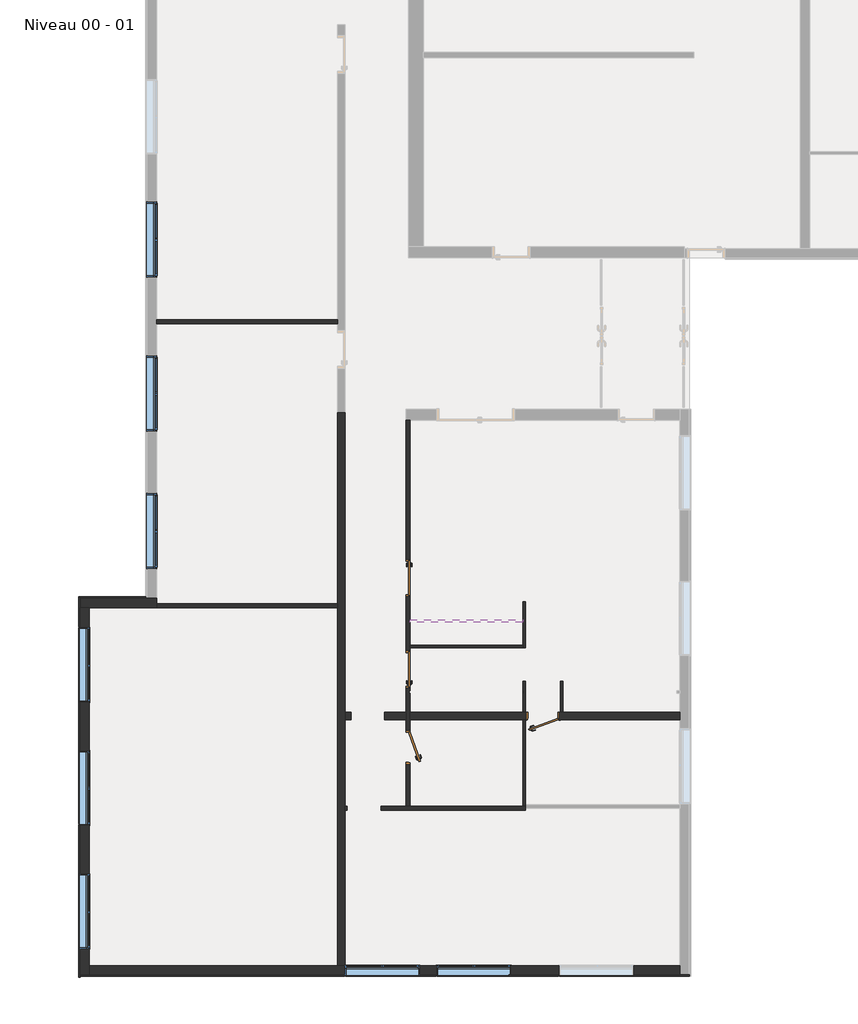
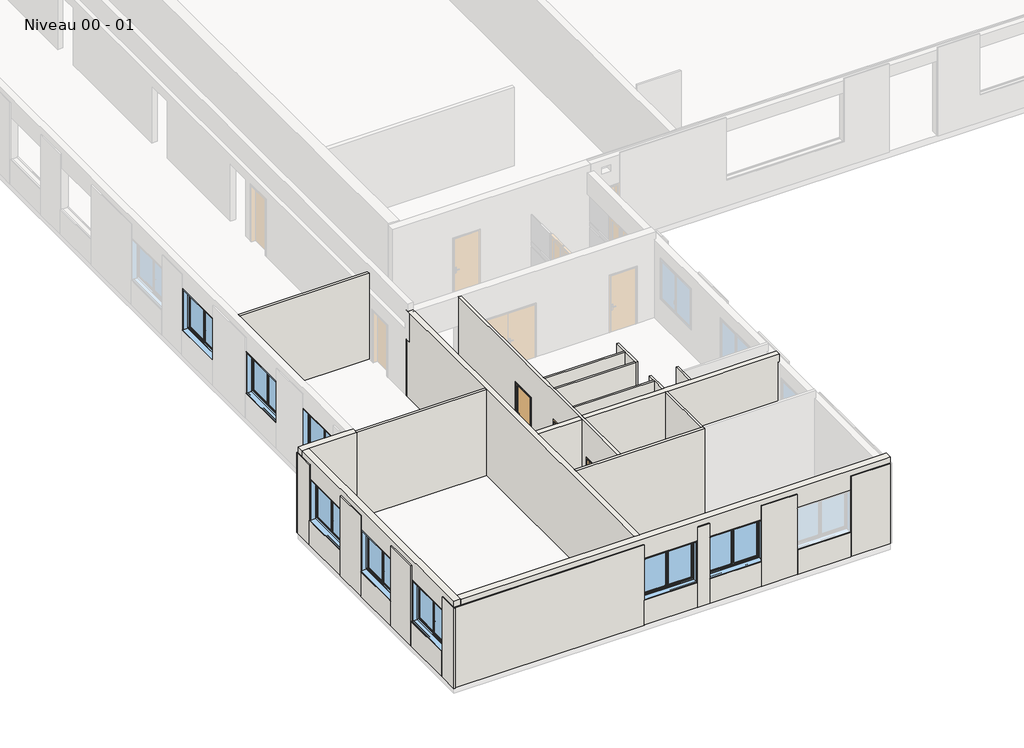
# One storey, part 1 of 8: 19 walls, 8 windows, 4 doors.
"""IFC4 building model written with IfcOpenShell, lengths in millimetres."""

from ifc_helpers import new_model, si_unit, frame, origin, place, context, project, spatial, polyline, outline, extrude, faceted_brep, transform, mapped, element, save
from components import door_f0ec710b, door_7789ac37, door_0ca0b57b, door_aee14cec, window_200_x_160_3bbd1c25

model = new_model("IFC4")

# Units and contexts
model_context = context("Model", 3, world=origin())
ifc_project = project(units=[si_unit("LENGTHUNIT", "METRE", prefix="MILLI")], contexts=[model_context])

# Site, building, storey
site = spatial("IfcSite", under=ifc_project)
building = spatial("IfcBuilding", under=site)
storey = spatial("IfcBuildingStorey", under=building, Name="Niveau 00 - 01", Elevation=253.3082742)

# Doors
placement = place(None, origin())
door_shape = door_f0ec710b(model_context)
element("IfcDoor", 1, ObjectType="@_Int. Simple : @_PP (0.93m x 2.25)", at=placement, inside=storey, context=model_context, shape_type="MappedRepresentation", body=[
    mapped(door_shape, transform((-36353.9891748, -45486.4622478, 253.3082742), x_axis=(0.0, 1.0, 0.0), y_axis=(-1.0, 0.0, 0.0), z_axis=(0.0, 0.0, 1.0))),
])
door_2_shape = door_7789ac37(model_context)
element("IfcDoor", 2, ObjectType="@_Int. Simple : @_PP (0.93m x 2.25)", at=placement, inside=storey, context=model_context, shape_type="MappedRepresentation", body=[
    mapped(door_2_shape, transform((-36353.9891748, -43111.9568753, 253.3082742), x_axis=(0.0, -1.0, 0.0), y_axis=(1.0, 0.0, 0.0), z_axis=(0.0, 0.0, 1.0))),
])
door_3_shape = door_0ca0b57b(model_context)
element("IfcDoor", 3, ObjectType="@_Int. Simple : @_PP (0.83m x 2.04m)", at=placement, inside=storey, context=model_context, shape_type="MappedRepresentation", body=[
    mapped(door_3_shape, transform((-32710.3661248, -46774.4568753, 253.3082742), x_axis=(1.0, 0.0, 0.0), y_axis=(0.0, 1.0, 0.0), z_axis=(0.0, 0.0, 1.0))),
])
door_4_shape = door_aee14cec(model_context)
element("IfcDoor", 4, ObjectType="@_Int. Simple : @_PP (0.83m x 2.04m)", at=placement, inside=storey, context=model_context, shape_type="MappedRepresentation", body=[
    mapped(door_4_shape, transform((-36353.9891748, -47575.9676203, 253.3082742), x_axis=(0.0, 1.0, 0.0), y_axis=(-1.0, 0.0, 0.0), z_axis=(0.0, 0.0, 1.0))),
])

# Walls
element("IfcWall", 5, ObjectType="@_Générique - Int. 100 mm", at=placement, inside=storey, context=model_context, shape_type="Brep", body=[
    faceted_brep([(-43092.9002047, -43867.1378722, 253.3082742), (-38243.9891749, -43867.1378721, 253.3082742), (-38243.9891749, -43867.1378721, 3653.3082742), (-43092.9002047, -43867.1378722, 3653.3082742), (-43092.9002047, -43867.1378722, 3651.8727639), (-43092.9002047, -43867.1378722, 466.6165485), (-43092.9002047, -43767.1378722, 253.3082742), (-43092.9002047, -43767.1378722, 3653.3082742), (-38243.9891749, -43767.1378721, 3653.3082742), (-38243.9891749, -43767.1378721, 253.3082742)], [[[0, 1, 2, 3, 4, 5]], [[6, 7, 8, 9]], [[1, 0, 6, 9]], [[2, 1, 9, 8]], [[3, 2, 8, 7]], [[0, 5, 4, 3, 7, 6]]]),
])
element("IfcWall", 6, ObjectType="@_Générique - Int. 100 mm", at=placement, inside=storey, context=model_context, shape_type="SweptSolid", body=[
    extrude(outline(polyline([(-38243.9891749, -36264.8269593), (-43092.9002047, -36264.8269594), (-43092.9002047, -36164.8269594), (-38243.9891749, -36164.8269593), (-38243.9891749, -36264.8269593)])), frame((0.0, 0.0, 253.3082742), z_axis=(0.0, 0.0, 1.0), x_axis=(1.0, 0.0, 0.0)), (0.0, 0.0, 1.0), 3400.0),
])
element("IfcWall", 7, ObjectType="@_Générique - Int. 100 mm", at=placement, inside=storey, context=model_context, shape_type="Brep", body=[
    faceted_brep([(-36303.9891748, -38859.0543071, 3653.3082742), (-36303.9891748, -44195.2078894, 3653.3082742), (-36303.9891748, -44265.2078894, 3653.3082742), (-36303.9891748, -44876.9568753, 3653.3082742), (-36303.9891748, -44946.9568753, 3653.3082742), (-36303.9891748, -46095.9676203, 3653.3082742), (-36303.9891748, -46165.9676203, 3653.3082742), (-36303.9891748, -46674.4568753, 3653.3082742), (-36303.9891748, -46874.4568753, 3653.3082742), (-36303.9891748, -49189.481824, 3653.3082742), (-36303.9891748, -49189.481824, 3150.0), (-36303.9891748, -49189.481824, 3100.0), (-36303.9891748, -49189.481824, 253.3082742), (-36303.9891748, -48060.9676203, 253.3082742), (-36303.9891748, -48060.9676203, 2328.3082742), (-36303.9891748, -47160.9676203, 2328.3082742), (-36303.9891748, -47160.9676203, 253.3082742), (-36303.9891748, -46874.4568753, 253.3082742), (-36303.9891748, -46674.4568753, 253.3082742), (-36303.9891748, -46165.9676203, 253.3082742), (-36303.9891748, -46165.9676203, 2075.0), (-36303.9891748, -46095.9676203, 2075.0), (-36303.9891748, -46095.9676203, 253.3082742), (-36303.9891748, -46021.4622478, 253.3082742), (-36303.9891748, -46021.4622478, 2518.3082742), (-36303.9891748, -45021.4622478, 2518.3082742), (-36303.9891748, -45021.4622478, 253.3082742), (-36303.9891748, -44946.9568753, 253.3082742), (-36303.9891748, -44876.9568753, 253.3082742), (-36303.9891748, -44265.2078894, 253.3082742), (-36303.9891748, -44265.2078894, 2075.0), (-36303.9891748, -44195.2078894, 2075.0), (-36303.9891748, -44195.2078894, 253.3082742), (-36303.9891748, -43576.9568753, 253.3082742), (-36303.9891748, -43576.9568753, 2518.3082742), (-36303.9891748, -42576.9568753, 2518.3082742), (-36303.9891748, -42576.9568753, 253.3082742), (-36303.9891748, -38859.0543071, 253.3082742), (-36303.9891748, -38859.0543071, 3100.0), (-36303.9891748, -38859.0543071, 3150.0), (-36403.9891748, -49189.481824, 3653.3082742), (-36403.9891748, -46874.4568753, 3653.3082742), (-36403.9891748, -46674.4568753, 3653.3082742), (-36403.9891748, -38859.0543071, 3653.3082742), (-36403.9891748, -38859.0543071, 2500.0), (-36403.9891748, -38859.0543071, 253.3082742), (-36403.9891748, -42576.9568753, 253.3082742), (-36403.9891748, -42576.9568753, 2518.3082742), (-36403.9891748, -43576.9568753, 2518.3082742), (-36403.9891748, -43576.9568753, 253.3082742), (-36403.9891748, -45021.4622478, 253.3082742), (-36403.9891748, -45021.4622478, 2518.3082742), (-36403.9891748, -46021.4622478, 2518.3082742), (-36403.9891748, -46021.4622478, 253.3082742), (-36403.9891748, -46674.4568753, 253.3082742), (-36403.9891748, -46874.4568753, 253.3082742), (-36403.9891748, -47160.9676203, 253.3082742), (-36403.9891748, -47160.9676203, 2328.3082742), (-36403.9891748, -48060.9676203, 2328.3082742), (-36403.9891748, -48060.9676203, 253.3082742), (-36403.9891748, -49189.481824, 253.3082742), (-36403.9891748, -49189.481824, 3100.0), (-36403.9891748, -49189.481824, 3150.0), (-36323.9891748, -44195.2078894, 253.3082742), (-36323.9891748, -44265.2078894, 253.3082742), (-36334.5346136, -46095.9676203, 253.3082742), (-36334.5346136, -46165.9676203, 253.3082742), (-36334.5346136, -46095.9676203, 2075.0), (-36334.5346136, -46165.9676203, 2075.0), (-36323.9891748, -44195.2078894, 2075.0), (-36323.9891748, -44265.2078894, 2075.0)], [[[0, 1, 2, 3, 4, 5, 6, 7, 8, 9, 10, 11, 12, 13, 14, 15, 16, 17, 18, 19, 20, 21, 22, 23, 24, 25, 26, 27, 28, 29, 30, 31, 32, 33, 34, 35, 36, 37, 38, 39]], [[40, 41, 42, 43, 44, 45, 46, 47, 48, 49, 50, 51, 52, 53, 54, 55, 56, 57, 58, 59, 60, 61, 62]], [[37, 36, 46, 45]], [[49, 33, 32, 63, 64, 29, 28, 27, 26, 50]], [[53, 23, 22, 65, 66, 19, 18, 17, 16, 56, 55, 54]], [[12, 60, 59, 13]], [[9, 8, 7, 6, 5, 4, 3, 2, 1, 0, 43, 42, 41, 40]], [[12, 11, 10, 9, 40, 62, 61, 60]], [[48, 34, 33, 49]], [[34, 48, 47, 35]], [[35, 47, 46, 36]], [[25, 51, 50, 26]], [[51, 25, 24, 52]], [[52, 24, 23, 53]], [[15, 57, 56, 16]], [[57, 15, 14, 58]], [[58, 14, 13, 59]], [[37, 45, 44, 43, 0, 39, 38]], [[21, 67, 65, 22]], [[66, 68, 20, 19]], [[67, 68, 66, 65]], [[68, 67, 21, 20]], [[31, 69, 63, 32]], [[64, 70, 30, 29]], [[69, 70, 64, 63]], [[70, 69, 31, 30]]]),
])
element("IfcWall", 8, ObjectType="@_Générique - Int. 100 mm", at=placement, inside=storey, context=model_context, shape_type="Brep", body=[
    faceted_brep([(-38043.9891749, -49189.481824, 3653.3082742), (-36403.9891748, -49189.481824, 3653.3082742), (-36303.9891748, -49189.481824, 3653.3082742), (-33283.8905761, -49189.481824, 3653.3082742), (-33213.8905761, -49189.481824, 3653.3082742), (-33213.8905761, -49189.481824, 253.3082742), (-33283.8905761, -49189.481824, 253.3082742), (-36303.9891748, -49189.481824, 253.3082742), (-36403.9891748, -49189.481824, 253.3082742), (-37083.9891749, -49189.481824, 253.3082742), (-37083.9891749, -49189.481824, 2100.0), (-37983.9891749, -49189.481824, 2100.0), (-37983.9891749, -49189.481824, 253.3082742), (-38043.9891749, -49189.481824, 253.3082742), (-33213.8905761, -49289.481824, 3653.3082742), (-38043.9891749, -49289.481824, 3653.3082742), (-38043.9891749, -49289.481824, 253.3082742), (-37983.9891749, -49289.481824, 253.3082742), (-37983.9891749, -49289.481824, 2100.0), (-37083.9891749, -49289.481824, 2100.0), (-37083.9891749, -49289.481824, 253.3082742), (-33213.8905761, -49289.481824, 253.3082742), (-33213.8905761, -49246.6174839, 253.3082742), (-33213.8905761, -49246.6174839, 3653.3082742)], [[[0, 1, 2, 3, 4, 5, 6, 7, 8, 9, 10, 11, 12, 13]], [[14, 15, 16, 17, 18, 19, 20, 21]], [[5, 22, 21, 20, 9, 8, 7, 6]], [[16, 13, 12, 17]], [[4, 3, 2, 1, 0, 15, 14, 23]], [[5, 4, 23, 14, 21, 22]], [[0, 13, 16, 15]], [[11, 18, 17, 12]], [[19, 10, 9, 20]], [[10, 19, 18, 11]]]),
])
element("IfcWall", 9, ObjectType="@_Générique - Int. 70 mm", at=placement, inside=storey, context=model_context, shape_type="Brep", body=[
    faceted_brep([(-33213.8905761, -49189.481824, 253.3082742), (-33213.8905761, -49146.6174839, 253.3082742), (-33213.8905761, -46874.4568753, 253.3082742), (-33213.8905761, -46874.4568753, 3653.3082742), (-33213.8905761, -49146.6174839, 3653.3082742), (-33213.8905761, -49189.481824, 3653.3082742), (-33283.8905761, -49189.481824, 253.3082742), (-33283.8905761, -49189.481824, 3653.3082742), (-33283.8905761, -46874.4568753, 3653.3082742), (-33283.8905761, -46874.4568753, 253.3082742)], [[[0, 1, 2, 3, 4, 5]], [[6, 7, 8, 9]], [[2, 1, 0, 6, 9]], [[5, 4, 3, 8, 7]], [[0, 5, 7, 6]], [[3, 2, 9, 8]]]),
])
element("IfcWall", 10, ObjectType="Mur EXE 40- Hach", at=placement, inside=storey, context=model_context, shape_type="Brep", body=[
    faceted_brep([(-45141.7005236, -53701.1523244, 3421.8727639), (-38050.1313112, -53701.1523244, 3421.8727639), (-38050.1313112, -53701.1523244, 1434.3082742), (-38050.1313112, -53701.1523244, 253.3082742), (-44891.7005236, -53701.1523244, 253.3082742), (-45141.7005236, -53701.1523244, 253.3082742), (-45141.7005236, -53741.1523244, 3421.8727639), (-45141.7005236, -53741.1523244, 253.3082742), (-38050.1313112, -53741.1523244, 253.3082742), (-38050.1313112, -53741.1523244, 1434.3082742), (-38050.1313112, -53741.1523244, 3421.8727639)], [[[0, 1, 2, 3, 4, 5]], [[6, 7, 8, 9, 10]], [[1, 0, 6, 10]], [[2, 1, 10, 9]], [[3, 2, 9, 8]], [[5, 4, 3, 8, 7]], [[0, 5, 7, 6]]]),
    faceted_brep([(-38035.1313112, -53701.1523244, 1224.3082742), (-36050.9891755, -53701.1523244, 1224.3082742), (-36050.9891755, -53701.1523244, 253.3082742), (-38035.1313112, -53701.1523244, 253.3082742), (-38035.1313112, -53741.1523244, 1224.3082742), (-38035.1313112, -53741.1523244, 253.3082742), (-36050.9891755, -53741.1523244, 253.3082742), (-36050.9891755, -53741.1523244, 1224.3082742)], [[[0, 1, 2, 3]], [[4, 5, 6, 7]], [[1, 0, 4, 7]], [[2, 1, 7, 6]], [[3, 2, 6, 5]], [[0, 3, 5, 4]]]),
    faceted_brep([(-36035.9891755, -53701.1523244, 1434.3082742), (-36035.9891755, -53701.1523244, 3421.8727639), (-35601.0077687, -53701.1523244, 3421.8727639), (-35601.0077687, -53701.1523244, 1434.3082742), (-35601.0077687, -53701.1523244, 253.3082742), (-36035.9891755, -53701.1523244, 253.3082742), (-36035.9891755, -53741.1523244, 1434.3082742), (-36035.9891755, -53741.1523244, 253.3082742), (-35601.0077687, -53741.1523244, 253.3082742), (-35601.0077687, -53741.1523244, 1434.3082742), (-35601.0077687, -53741.1523244, 3421.8727639), (-36035.9891755, -53741.1523244, 3421.8727639)], [[[0, 1, 2, 3, 4, 5]], [[6, 7, 8, 9, 10, 11]], [[1, 0, 6, 11]], [[2, 1, 11, 10]], [[3, 2, 10, 9]], [[4, 3, 9, 8]], [[5, 4, 8, 7]], [[0, 5, 7, 6]]]),
    faceted_brep([(-35586.0077687, -53701.1523244, 1224.3082742), (-33661.3467808, -53701.1523244, 1224.3082742), (-33661.3467808, -53701.1523244, 253.3082742), (-35586.0077687, -53701.1523244, 253.3082742), (-35586.0077687, -53741.1523244, 1224.3082742), (-35586.0077687, -53741.1523244, 253.3082742), (-33661.3467808, -53741.1523244, 253.3082742), (-33661.3467808, -53741.1523244, 1224.3082742)], [[[0, 1, 2, 3]], [[4, 5, 6, 7]], [[1, 0, 4, 7]], [[2, 1, 7, 6]], [[3, 2, 6, 5]], [[0, 3, 5, 4]]]),
    faceted_brep([(-33646.3467808, -53701.1523244, 1434.3082742), (-33646.3467808, -53701.1523244, 3421.8727639), (-32321.0967808, -53701.1523244, 3421.8727639), (-32321.0967808, -53701.1523244, 1434.3082742), (-32321.0967808, -53701.1523244, 253.3082742), (-33646.3467808, -53701.1523244, 253.3082742), (-33646.3467808, -53741.1523244, 1434.3082742), (-33646.3467808, -53741.1523244, 253.3082742), (-32321.0967808, -53741.1523244, 253.3082742), (-32321.0967808, -53741.1523244, 1434.3082742), (-32321.0967808, -53741.1523244, 3421.8727639), (-33646.3467808, -53741.1523244, 3421.8727639)], [[[0, 1, 2, 3, 4, 5]], [[6, 7, 8, 9, 10, 11]], [[1, 0, 6, 11]], [[2, 1, 11, 10]], [[3, 2, 10, 9]], [[4, 3, 9, 8]], [[5, 4, 8, 7]], [[0, 5, 7, 6]]]),
    faceted_brep([(-32305.4916918, -53701.1523244, 1224.3082742), (-30321.3495562, -53701.1523244, 1224.3082742), (-30321.3495562, -53701.1523244, 253.3082742), (-32305.4916918, -53701.1523244, 253.3082742), (-32305.4916918, -53741.1523244, 1224.3082742), (-32305.4916918, -53741.1523244, 253.3082742), (-30321.3495562, -53741.1523244, 253.3082742), (-30321.3495562, -53741.1523244, 1224.3082742)], [[[0, 1, 2, 3]], [[4, 5, 6, 7]], [[1, 0, 4, 7]], [[2, 1, 7, 6]], [[3, 2, 6, 5]], [[0, 3, 5, 4]]]),
    faceted_brep([(-28823.0967815, -53701.1523244, 253.3082742), (-29073.0967815, -53701.1523244, 253.3082742), (-30305.0967808, -53701.1523244, 253.3082742), (-30305.0967808, -53701.1523244, 1224.3082742), (-30305.0967808, -53701.1523244, 3421.8727639), (-28823.0967815, -53701.1523244, 3421.8727639), (-28823.0967815, -53701.1523244, 3351.8727639), (-28823.0967815, -53741.1523244, 253.3082742), (-28823.0967815, -53741.1523244, 3421.8727639), (-30305.0967808, -53741.1523244, 3421.8727639), (-30305.0967808, -53741.1523244, 1224.3082742), (-30305.0967808, -53741.1523244, 253.3082742)], [[[0, 1, 2, 3, 4, 5, 6]], [[7, 8, 9, 10, 11]], [[2, 1, 0, 7, 11]], [[3, 2, 11, 10]], [[4, 3, 10, 9]], [[5, 4, 9, 8]], [[0, 6, 5, 8, 7]]]),
])
element("IfcWall", 11, ObjectType="Mur EXE 40- Hach", at=placement, inside=storey, context=model_context, shape_type="SweptSolid", body=[
    extrude(outline(polyline([(-45181.7005236, -43577.1378761), (-43382.9002047, -43577.1378761), (-43382.9002047, -43617.1378761), (-45181.7005236, -43617.1378761), (-45181.7005236, -43577.1378761)])), frame((0.0, 0.0, 253.3082742), z_axis=(0.0, 0.0, 1.0), x_axis=(1.0, 0.0, 0.0)), (0.0, 0.0, 1.0), 3168.5644896),
])
element("IfcWall", 12, ObjectType="Mur EXE 40- Hach", at=placement, inside=storey, context=model_context, shape_type="Brep", body=[
    faceted_brep([(-45181.7005236, -52983.1388936, 1224.3082742), (-45181.7005236, -50998.996758, 1224.3082742), (-45181.7005236, -50998.996758, 253.3082742), (-45181.7005236, -52983.1388936, 253.3082742), (-45141.7005236, -52983.1388936, 1224.3082742), (-45141.7005236, -52983.1388936, 253.3082742), (-45141.7005236, -50998.996758, 253.3082742), (-45141.7005236, -50998.996758, 1224.3082742)], [[[0, 1, 2, 3]], [[4, 5, 6, 7]], [[1, 0, 4, 7]], [[0, 3, 5, 4]], [[2, 1, 7, 6]], [[3, 2, 6, 5]]]),
    faceted_brep([(-45181.7005236, -50983.996758, 1224.3082742), (-45181.7005236, -50983.996758, 3421.8727639), (-45181.7005236, -49676.8278512, 3421.8727639), (-45181.7005236, -49676.8278512, 1224.3082742), (-45181.7005236, -49676.8278512, 253.3082742), (-45181.7005236, -50983.996758, 253.3082742), (-45141.7005236, -50983.996758, 1224.3082742), (-45141.7005236, -50983.996758, 253.3082742), (-45141.7005236, -49676.8278512, 253.3082742), (-45141.7005236, -49676.8278512, 1224.3082742), (-45141.7005236, -49676.8278512, 3421.8727639), (-45141.7005236, -50983.996758, 3421.8727639)], [[[0, 1, 2, 3, 4, 5]], [[6, 7, 8, 9, 10, 11]], [[1, 0, 6, 11]], [[2, 1, 11, 10]], [[0, 5, 7, 6]], [[5, 4, 8, 7]], [[3, 2, 10, 9]], [[4, 3, 9, 8]]]),
    faceted_brep([(-45181.7005236, -52998.1388936, 3421.8727639), (-45181.7005236, -52998.1388936, 1224.3082742), (-45181.7005236, -52998.1388936, 253.3082742), (-45181.7005236, -53770.1388936, 253.3082742), (-45181.7005236, -53770.1388936, 3421.8727639), (-45141.7005236, -52998.1388936, 3421.8727639), (-45141.7005236, -53701.1523244, 3421.8727639), (-45141.7005236, -53741.1523244, 3421.8727639), (-45141.7005236, -53770.1388936, 3421.8727639), (-45141.7005236, -53770.1388936, 253.3082742), (-45141.7005236, -53741.1523244, 253.3082742), (-45141.7005236, -53701.1523244, 253.3082742), (-45141.7005236, -52998.1388936, 253.3082742), (-45141.7005236, -52998.1388936, 1224.3082742)], [[[0, 1, 2, 3, 4]], [[5, 6, 7, 8, 9, 10, 11, 12, 13]], [[1, 0, 5, 13]], [[3, 2, 12, 11, 10, 9]], [[2, 1, 13, 12]], [[0, 4, 8, 7, 6, 5]], [[4, 3, 9, 8]]]),
    faceted_brep([(-45181.7005236, -47722.1668632, 1224.3082742), (-45181.7005236, -47722.1668632, 3421.8727639), (-45181.7005236, -46404.1043632, 3421.8727639), (-45181.7005236, -46404.1043632, 1224.3082742), (-45181.7005236, -46404.1043632, 253.3082742), (-45181.7005236, -47722.1668632, 253.3082742), (-45141.7005236, -47722.1668632, 1224.3082742), (-45141.7005236, -47722.1668632, 253.3082742), (-45141.7005236, -46404.1043632, 253.3082742), (-45141.7005236, -46404.1043632, 1224.3082742), (-45141.7005236, -46404.1043632, 3421.8727639), (-45141.7005236, -47722.1668632, 3421.8727639)], [[[0, 1, 2, 3, 4, 5]], [[6, 7, 8, 9, 10, 11]], [[1, 0, 6, 11]], [[3, 2, 10, 9]], [[0, 5, 7, 6]], [[4, 3, 9, 8]], [[2, 1, 11, 10]], [[5, 4, 8, 7]]]),
    faceted_brep([(-45181.7005236, -49661.8278512, 1224.3082742), (-45181.7005236, -47737.1668632, 1224.3082742), (-45181.7005236, -47737.1668632, 253.3082742), (-45181.7005236, -49661.8278512, 253.3082742), (-45141.7005236, -49661.8278512, 1224.3082742), (-45141.7005236, -49661.8278512, 253.3082742), (-45141.7005236, -47737.1668632, 253.3082742), (-45141.7005236, -47737.1668632, 1224.3082742)], [[[0, 1, 2, 3]], [[4, 5, 6, 7]], [[1, 0, 4, 7]], [[0, 3, 5, 4]], [[2, 1, 7, 6]], [[3, 2, 6, 5]]]),
    faceted_brep([(-45181.7005236, -46388.4992742, 1224.3082742), (-45181.7005236, -44404.3772199, 1224.3082742), (-45181.7005236, -44404.3772199, 253.3082742), (-45181.7005236, -46388.4992742, 253.3082742), (-45141.7005236, -46388.4992742, 1224.3082742), (-45141.7005236, -46388.4992742, 253.3082742), (-45141.7005236, -44404.3772199, 253.3082742), (-45141.7005236, -44404.3772199, 1224.3082742)], [[[0, 1, 2, 3]], [[4, 5, 6, 7]], [[3, 2, 6, 5]], [[2, 1, 7, 6]], [[1, 0, 4, 7]], [[0, 3, 5, 4]]]),
    faceted_brep([(-45181.7005236, -43606.1244452, 3421.8727639), (-45181.7005236, -43606.1244452, 253.3082742), (-45181.7005236, -44388.1244445, 253.3082742), (-45181.7005236, -44388.1244445, 1224.3082742), (-45181.7005236, -44388.1244445, 3421.8727639), (-45141.7005236, -43606.1244452, 3421.8727639), (-45141.7005236, -44388.1244445, 3421.8727639), (-45141.7005236, -44388.1244445, 1224.3082742), (-45141.7005236, -44388.1244445, 253.3082742), (-45141.7005236, -43606.1244452, 253.3082742)], [[[0, 1, 2, 3, 4]], [[5, 6, 7, 8, 9]], [[0, 4, 6, 5]], [[4, 3, 7, 6]], [[3, 2, 8, 7]], [[2, 1, 9, 8]], [[1, 0, 5, 9]]]),
])
element("IfcWall", 13, ObjectType="@_Générique - Int. 70 mm", at=placement, inside=storey, context=model_context, shape_type="SweptSolid", body=[
    extrude(outline(polyline([(-33283.8905761, -44946.9568753), (-36303.9891748, -44946.9568753), (-36303.9891748, -44876.9568753), (-33283.8905761, -44876.9568753), (-33283.8905761, -44946.9568753)])), frame((0.0, 0.0, 253.3082742), z_axis=(0.0, 0.0, 1.0), x_axis=(1.0, 0.0, 0.0)), (0.0, 0.0, 1.0), 3400.0),
])
element("IfcWall", 14, ObjectType="@_Générique - Int. 70 mm", at=placement, inside=storey, context=model_context, shape_type="Brep", body=[
    faceted_brep([(-33213.8905761, -44946.9568753, 253.3082742), (-33213.8905761, -43711.9568753, 253.3082742), (-33213.8905761, -43711.9568753, 3653.3082742), (-33213.8905761, -44946.9568753, 3653.3082742), (-33283.8905761, -43711.9568753, 3653.3082742), (-33283.8905761, -43711.9568753, 253.3082742), (-33283.8905761, -44195.2078894, 253.3082742), (-33283.8905761, -44195.2078894, 2075.0), (-33283.8905761, -44265.2078894, 2075.0), (-33283.8905761, -44265.2078894, 253.3082742), (-33283.8905761, -44876.9568753, 253.3082742), (-33283.8905761, -44946.9568753, 253.3082742), (-33283.8905761, -44946.9568753, 3653.3082742), (-33283.8905761, -44876.9568753, 3653.3082742), (-33283.8905761, -44265.2078894, 3653.3082742), (-33283.8905761, -44195.2078894, 3653.3082742), (-33273.9891748, -44265.2078894, 253.3082742), (-33273.9891748, -44195.2078894, 253.3082742), (-33273.9891748, -44195.2078894, 2075.0), (-33273.9891748, -44265.2078894, 2075.0)], [[[0, 1, 2, 3]], [[4, 5, 6, 7, 8, 9, 10, 11, 12, 13, 14, 15]], [[1, 0, 11, 10, 9, 16, 17, 6, 5]], [[2, 1, 5, 4]], [[3, 2, 4, 15, 14, 13, 12]], [[0, 3, 12, 11]], [[17, 18, 7, 6]], [[8, 19, 16, 9]], [[18, 19, 8, 7]], [[19, 18, 17, 16]]]),
])
element("IfcWall", 15, ObjectType="@_Générique - Int. 70 mm", at=placement, inside=storey, context=model_context, shape_type="Brep", body=[
    faceted_brep([(-32210.3661248, -46674.4568753, 253.3082742), (-32210.3661248, -46165.9676203, 253.3082742), (-32210.3661248, -46095.9676203, 253.3082742), (-32210.3661248, -45834.4568753, 253.3082742), (-32210.3661248, -45834.4568753, 3653.3082742), (-32210.3661248, -46095.9676203, 3653.3082742), (-32210.3661248, -46165.9676203, 3653.3082742), (-32210.3661248, -46674.4568753, 3653.3082742), (-32280.3661248, -46674.4568753, 253.3082742), (-32280.3661248, -46674.4568753, 3653.3082742), (-32280.3661248, -45834.4568753, 3653.3082742), (-32280.3661248, -45834.4568753, 253.3082742)], [[[0, 1, 2, 3, 4, 5, 6, 7]], [[8, 9, 10, 11]], [[3, 2, 1, 0, 8, 11]], [[4, 3, 11, 10]], [[7, 6, 5, 4, 10, 9]], [[0, 7, 9, 8]]]),
])
element("IfcWall", 16, ObjectType="@_Générique - Int. 70 mm", at=placement, inside=storey, context=model_context, shape_type="Brep", body=[
    faceted_brep([(-33213.8905761, -46674.4568753, 253.3082742), (-33213.8905761, -45834.4568753, 253.3082742), (-33213.8905761, -45834.4568753, 3653.3082742), (-33213.8905761, -46674.4568753, 3653.3082742), (-33283.8905761, -46674.4568753, 253.3082742), (-33283.8905761, -46674.4568753, 3653.3082742), (-33283.8905761, -46165.9676203, 3653.3082742), (-33283.8905761, -46095.9676203, 3653.3082742), (-33283.8905761, -45834.4568753, 3653.3082742), (-33283.8905761, -45834.4568753, 253.3082742), (-33283.8905761, -46095.9676203, 253.3082742), (-33283.8905761, -46165.9676203, 253.3082742)], [[[0, 1, 2, 3]], [[4, 5, 6, 7, 8, 9, 10, 11]], [[1, 0, 4, 11, 10, 9]], [[2, 1, 9, 8]], [[3, 2, 8, 7, 6, 5]], [[0, 3, 5, 4]]]),
])
element("IfcWall", 17, ObjectType="@_Générique - Int. 70 mm", at=placement, inside=storey, context=model_context, shape_type="SweptSolid", body=[
    extrude(outline(polyline([(3653.3082742, -33283.8905761), (3653.3082742, -36303.9891748), (2075.0, -36303.9891748), (2075.0, -33284.5346136), (253.3082742, -33284.5346136), (253.3082742, -33283.8905761), (3653.3082742, -33283.8905761)])), frame((0.0, -46165.9676203, 0.0), z_axis=(0.0, 1.0, 0.0), x_axis=(0.0, 0.0, 1.0)), (0.0, 0.0, 1.0), 70.0),
])
element("IfcWall", 18, ObjectType="@_Générique - Int. 70 mm", at=placement, inside=storey, context=model_context, shape_type="SweptSolid", body=[
    extrude(outline(polyline([(-33283.8905761, -44265.2078894), (-36303.9891748, -44265.2078894), (-36303.9891748, -44195.2078894), (-33283.8905761, -44195.2078894), (-33283.8905761, -44265.2078894)])), frame((0.0, 0.0, 2075.0), z_axis=(0.0, 0.0, 1.0), x_axis=(1.0, 0.0, 0.0)), (0.0, 0.0, 1.0), 1578.3082742),
])
element("IfcWall", 19, ObjectType="Ext. Voile BA 200", at=placement, inside=storey, context=model_context, shape_type="Brep", body=[
    faceted_brep([(-29023.0967815, -46674.4568753, 3351.8727639), (-29073.0967815, -46674.4568753, 3351.8727639), (-29073.0967815, -46674.4568753, 253.3082742), (-32210.3661248, -46674.4568753, 253.3082742), (-32280.3661248, -46674.4568753, 253.3082742), (-32295.3661248, -46674.4568753, 253.3082742), (-32295.3661248, -46674.4568753, 2328.3082742), (-33195.3661248, -46674.4568753, 2328.3082742), (-33195.3661248, -46674.4568753, 253.3082742), (-33213.8905761, -46674.4568753, 253.3082742), (-33283.8905761, -46674.4568753, 253.3082742), (-36303.9891748, -46674.4568753, 253.3082742), (-36303.9891748, -46674.4568753, 3653.3082742), (-33283.8905761, -46674.4568753, 3653.3082742), (-33213.8905761, -46674.4568753, 3653.3082742), (-32280.3661248, -46674.4568753, 3653.3082742), (-32210.3661248, -46674.4568753, 3653.3082742), (-29023.0967815, -46674.4568753, 3653.3082742), (-29073.0967815, -46874.4568753, 3351.8727639), (-29023.0967815, -46874.4568753, 3351.8727639), (-29023.0967815, -46874.4568753, 3653.3082742), (-33213.8905761, -46874.4568753, 3653.3082742), (-33283.8905761, -46874.4568753, 3653.3082742), (-36303.9891748, -46874.4568753, 3653.3082742), (-36303.9891748, -46874.4568753, 253.3082742), (-33283.8905761, -46874.4568753, 253.3082742), (-33213.8905761, -46874.4568753, 253.3082742), (-33195.3661248, -46874.4568753, 253.3082742), (-33195.3661248, -46874.4568753, 2328.3082742), (-32295.3661248, -46874.4568753, 2328.3082742), (-32295.3661248, -46874.4568753, 253.3082742), (-29073.0967815, -46874.4568753, 253.3082742)], [[[0, 1, 2, 3, 4, 5, 6, 7, 8, 9, 10, 11, 12, 13, 14, 15, 16, 17]], [[18, 19, 20, 21, 22, 23, 24, 25, 26, 27, 28, 29, 30, 31]], [[2, 31, 30, 5, 4, 3]], [[8, 27, 26, 25, 24, 11, 10, 9]], [[20, 17, 16, 15, 14, 13, 12, 23, 22, 21]], [[19, 18, 1, 0]], [[31, 2, 1, 18]], [[17, 20, 19, 0]], [[12, 11, 24, 23]], [[29, 6, 5, 30]], [[6, 29, 28, 7]], [[7, 28, 27, 8]]]),
    faceted_brep([(-38043.9891749, -46674.4568753, 253.3082742), (-38043.9891749, -46674.4568753, 3653.3082742), (-36403.9891748, -46674.4568753, 3653.3082742), (-36403.9891748, -46674.4568753, 253.3082742), (-36983.9891749, -46674.4568753, 253.3082742), (-36983.9891749, -46674.4568753, 2075.0), (-37883.9891749, -46674.4568753, 2075.0), (-37883.9891749, -46674.4568753, 253.3082742), (-38043.9891749, -46874.4568753, 3653.3082742), (-38043.9891749, -46874.4568753, 253.3082742), (-37883.9891749, -46874.4568753, 253.3082742), (-37883.9891749, -46874.4568753, 2075.0), (-36983.9891749, -46874.4568753, 2075.0), (-36983.9891749, -46874.4568753, 253.3082742), (-36403.9891748, -46874.4568753, 253.3082742), (-36403.9891748, -46874.4568753, 3653.3082742)], [[[0, 1, 2, 3, 4, 5, 6, 7]], [[8, 9, 10, 11, 12, 13, 14, 15]], [[9, 0, 7, 10]], [[13, 4, 3, 14]], [[1, 8, 15, 2]], [[1, 0, 9, 8]], [[3, 2, 15, 14]], [[7, 6, 11, 10]], [[6, 5, 12, 11]], [[5, 4, 13, 12]]]),
])
element("IfcWall", 20, ObjectType="Ext. Voile BA 200", at=placement, inside=storey, context=model_context, shape_type="Brep", body=[
    faceted_brep([(-38243.9891749, -38659.0543071, 253.3082742), (-38243.9891749, -43767.1378721, 253.3082742), (-38243.9891749, -43867.1378721, 253.3082742), (-38243.9891749, -53451.1523244, 253.3082742), (-38243.9891749, -53451.1523244, 3653.3082742), (-38243.9891749, -43867.1378721, 3653.3082742), (-38243.9891749, -43767.1378721, 3653.3082742), (-38243.9891749, -38759.0543071, 3653.3082742), (-38243.9891749, -38709.0543071, 3653.3082742), (-38243.9891749, -38659.0543071, 3653.3082742), (-38243.9891749, -38659.0543071, 3651.8727639), (-38243.9891749, -38709.0543071, 3651.8727639), (-38243.9891749, -38859.0543071, 3651.8727639), (-38243.9891749, -38859.0543071, 2500.0), (-38243.9891749, -38709.0543071, 2500.0), (-38243.9891749, -38659.0543071, 2500.0), (-38043.9891749, -38659.0543071, 253.3082742), (-38043.9891749, -38659.0543071, 2500.0), (-38043.9891749, -38709.0543071, 2500.0), (-38043.9891749, -38859.0543071, 2500.0), (-38043.9891749, -38859.0543071, 3651.8727639), (-38043.9891749, -38759.0543071, 3651.8727639), (-38043.9891749, -38709.0543071, 3651.8727639), (-38043.9891749, -38659.0543071, 3651.8727639), (-38043.9891749, -38659.0543071, 3653.3082742), (-38043.9891749, -38709.0543071, 3653.3082742), (-38043.9891749, -38759.0543071, 3653.3082742), (-38043.9891749, -46674.4568753, 3653.3082742), (-38043.9891749, -46874.4568753, 3653.3082742), (-38043.9891749, -49189.481824, 3653.3082742), (-38043.9891749, -49289.481824, 3653.3082742), (-38043.9891749, -53451.1523244, 3653.3082742), (-38043.9891749, -53451.1523244, 2853.3082742), (-38043.9891749, -53451.1523244, 1253.3082742), (-38043.9891749, -53451.1523244, 253.3082742), (-38043.9891749, -49289.481824, 253.3082742), (-38043.9891749, -49189.481824, 253.3082742), (-38043.9891749, -46874.4568753, 253.3082742), (-38043.9891749, -46674.4568753, 253.3082742)], [[[0, 1, 2, 3, 4, 5, 6, 7, 8, 9, 10, 11, 12, 13, 14, 15]], [[16, 17, 18, 19, 20, 21, 22, 23, 24, 25, 26, 27, 28, 29, 30, 31, 32, 33, 34, 35, 36, 37, 38]], [[3, 2, 1, 0, 16, 38, 37, 36, 35, 34]], [[4, 3, 34, 33, 32, 31]], [[0, 15, 17, 16]], [[13, 19, 18, 17, 15, 14]], [[9, 8, 7, 26, 25, 24]], [[7, 6, 5, 4, 31, 30, 29, 28, 27, 26]], [[10, 9, 24, 23]], [[10, 23, 22, 21, 20, 12, 11]], [[13, 12, 20, 19]]]),
])
element("IfcWall", 21, ObjectType="Ext. Voile BA 250", at=placement, inside=storey, context=model_context, shape_type="Brep", body=[
    faceted_brep([(-44891.7005236, -53701.1523244, 253.3082742), (-44891.7005236, -53451.1523244, 253.3082742), (-44891.7005236, -43867.1378765, 253.3082742), (-44891.7005236, -43867.1378765, 3651.8727639), (-44891.7005236, -53451.1523244, 3651.8727639), (-44891.7005236, -53701.1523244, 3651.8727639), (-44891.7005236, -53001.1523248, 1253.3082742), (-44891.7005236, -53001.1523248, 2853.3082742), (-44891.7005236, -51001.1523248, 2853.3082742), (-44891.7005236, -51001.1523248, 1253.3082742), (-44891.7005236, -49701.1523244, 1253.3082742), (-44891.7005236, -49701.1523244, 2853.3082742), (-44891.7005236, -47701.1523244, 2853.3082742), (-44891.7005236, -47701.1523244, 1253.3082742), (-44891.7005236, -46401.1523247, 1253.3082742), (-44891.7005236, -46401.1523247, 2853.3082742), (-44891.7005236, -44401.1523247, 2853.3082742), (-44891.7005236, -44401.1523247, 1253.3082742), (-45141.7005236, -43867.1378768, 253.3082742), (-45141.7005236, -53701.1523244, 253.3082742), (-45141.7005236, -53701.1523244, 3651.8727639), (-45141.7005236, -43867.1378768, 3651.8727639), (-45141.7005236, -43867.1378768, 466.6165485), (-45141.7005236, -53001.1523248, 2853.3082742), (-45141.7005236, -53001.1523248, 1233.3082742), (-45141.7005236, -51001.1523248, 1233.3082742), (-45141.7005236, -51001.1523248, 2853.3082742), (-45141.7005236, -49701.1523244, 2853.3082742), (-45141.7005236, -49701.1523244, 1233.3082742), (-45141.7005236, -47701.1523244, 1233.3082742), (-45141.7005236, -47701.1523244, 2853.3082742), (-45141.7005236, -46401.1523247, 2853.3082742), (-45141.7005236, -46401.1523247, 1233.3082742), (-45141.7005236, -44401.1523247, 1233.3082742), (-45141.7005236, -44401.1523247, 2853.3082742), (-44941.7005236, -53701.1523244, 3651.8727639), (-44921.7005236, -53001.1523248, 1253.3082742), (-44921.7005236, -53001.1523248, 1218.3082742), (-45101.7005236, -53001.1523248, 1218.3082742), (-45101.7005236, -53001.1523248, 1233.3082742), (-44921.7005236, -51001.1523248, 1253.3082742), (-45101.7005236, -51001.1523248, 1233.3082742), (-45101.7005236, -51001.1523248, 1218.3082742), (-44921.7005236, -51001.1523248, 1218.3082742), (-44921.7005236, -49701.1523244, 1253.3082742), (-44921.7005236, -49701.1523244, 1218.3082742), (-45101.7005236, -49701.1523244, 1218.3082742), (-45101.7005236, -49701.1523244, 1233.3082742), (-44921.7005236, -47701.1523244, 1253.3082742), (-45101.7005236, -47701.1523244, 1233.3082742), (-45101.7005236, -47701.1523244, 1218.3082742), (-44921.7005236, -47701.1523244, 1218.3082742), (-44921.7005236, -46401.1523247, 1253.3082742), (-44921.7005236, -46401.1523247, 1218.3082742), (-45101.7005236, -46401.1523247, 1218.3082742), (-45101.7005236, -46401.1523247, 1233.3082742), (-45101.7005236, -44401.1523247, 1233.3082742), (-45101.7005236, -44401.1523247, 1218.3082742), (-44921.7005236, -44401.1523247, 1218.3082742), (-44921.7005236, -44401.1523247, 1253.3082742)], [[[0, 1, 2, 3, 4, 5], [6, 7, 8, 9], [10, 11, 12, 13], [14, 15, 16, 17]], [[18, 19, 20, 21, 22], [23, 24, 25, 26], [27, 28, 29, 30], [31, 32, 33, 34]], [[2, 1, 0, 19, 18]], [[5, 4, 3, 21, 20, 35]], [[0, 5, 35, 20, 19]], [[3, 2, 18, 22, 21]], [[23, 7, 6, 36, 37, 38, 39, 24]], [[40, 9, 8, 26, 25, 41, 42, 43]], [[36, 6, 9, 40]], [[37, 36, 40, 43]], [[38, 37, 43, 42]], [[39, 38, 42, 41]], [[24, 39, 41, 25]], [[7, 23, 26, 8]], [[27, 11, 10, 44, 45, 46, 47, 28]], [[48, 13, 12, 30, 29, 49, 50, 51]], [[44, 10, 13, 48]], [[45, 44, 48, 51]], [[46, 45, 51, 50]], [[47, 46, 50, 49]], [[28, 47, 49, 29]], [[11, 27, 30, 12]], [[14, 52, 53, 54, 55, 32, 31, 15]], [[16, 34, 33, 56, 57, 58, 59, 17]], [[52, 14, 17, 59]], [[53, 52, 59, 58]], [[54, 53, 58, 57]], [[55, 54, 57, 56]], [[32, 55, 56, 33]], [[15, 31, 34, 16]]]),
])
element("IfcWall", 22, ObjectType="Ext. Voile BA 250", at=placement, inside=storey, context=model_context, shape_type="Brep", body=[
    faceted_brep([(-29073.0967815, -53451.1523244, 253.3082742), (-38043.9891749, -53451.1523244, 253.3082742), (-38243.9891749, -53451.1523244, 253.3082742), (-44891.7005236, -53451.1523244, 253.3082742), (-44891.7005236, -53451.1523244, 3651.8727639), (-29023.0967815, -53451.1523244, 3651.8727639), (-28823.0967815, -53451.1523244, 3651.8727639), (-28823.0967815, -53451.1523244, 3351.8727639), (-29023.0967815, -53451.1523244, 3351.8727639), (-29073.0967815, -53451.1523244, 3351.8727639), (-33593.0967808, -53451.1523244, 1253.3082742), (-33593.0967808, -53451.1523244, 2853.3082742), (-35593.0967808, -53451.1523244, 2853.3082742), (-35593.0967808, -53451.1523244, 1253.3082742), (-36043.9891749, -53451.1523244, 1253.3082742), (-36043.9891749, -53451.1523244, 2853.3082742), (-38043.9891749, -53451.1523244, 2853.3082742), (-38043.9891749, -53451.1523244, 1253.3082742), (-30313.0967808, -53451.1523244, 1253.3082742), (-30313.0967808, -53451.1523244, 2853.3082742), (-32313.0967808, -53451.1523244, 2853.3082742), (-32313.0967808, -53451.1523244, 1253.3082742), (-44891.7005236, -53701.1523244, 253.3082742), (-38050.1313112, -53701.1523244, 253.3082742), (-38035.1313112, -53701.1523244, 253.3082742), (-36050.9891755, -53701.1523244, 253.3082742), (-36035.9891755, -53701.1523244, 253.3082742), (-35601.0077687, -53701.1523244, 253.3082742), (-35586.0077687, -53701.1523244, 253.3082742), (-33661.3467808, -53701.1523244, 253.3082742), (-33646.3467808, -53701.1523244, 253.3082742), (-32321.0967808, -53701.1523244, 253.3082742), (-32305.4916918, -53701.1523244, 253.3082742), (-30321.3495562, -53701.1523244, 253.3082742), (-30305.0967808, -53701.1523244, 253.3082742), (-29073.0967815, -53701.1523244, 253.3082742), (-29073.0967815, -53701.1523244, 3351.8727639), (-28823.0967815, -53701.1523244, 3351.8727639), (-28823.0967815, -53701.1523244, 3421.8727639), (-28823.0967815, -53701.1523244, 3651.8727639), (-29023.0967815, -53701.1523244, 3651.8727639), (-44891.7005236, -53701.1523244, 3651.8727639), (-33593.0967808, -53701.1523244, 2853.3082742), (-33593.0967808, -53701.1523244, 1233.3082742), (-35593.0967808, -53701.1523244, 1233.3082742), (-35593.0967808, -53701.1523244, 2853.3082742), (-36043.9891749, -53701.1523244, 2853.3082742), (-36043.9891749, -53701.1523244, 1233.3082742), (-38043.9891749, -53701.1523244, 1233.3082742), (-38043.9891749, -53701.1523244, 2853.3082742), (-30313.0967808, -53701.1523244, 2853.3082742), (-30313.0967808, -53701.1523244, 1233.3082742), (-32313.0967808, -53701.1523244, 1233.3082742), (-32313.0967808, -53701.1523244, 2853.3082742), (-33593.0967808, -53481.1523244, 1253.3082742), (-33593.0967808, -53481.1523244, 1218.3082742), (-33593.0967808, -53661.1523245, 1218.3082742), (-33593.0967808, -53661.1523245, 1233.3082742), (-35593.0967808, -53661.1523245, 1233.3082742), (-35593.0967808, -53661.1523245, 1218.3082742), (-35593.0967808, -53481.1523244, 1218.3082742), (-35593.0967808, -53481.1523244, 1253.3082742), (-36043.9891749, -53481.1523244, 1253.3082742), (-36043.9891749, -53481.1523244, 1218.3082742), (-36043.9891749, -53661.1523245, 1218.3082742), (-36043.9891749, -53661.1523245, 1233.3082742), (-38043.9891749, -53661.1523245, 1233.3082742), (-38043.9891749, -53661.1523245, 1218.3082742), (-38043.9891749, -53481.1523244, 1218.3082742), (-38043.9891749, -53481.1523244, 1253.3082742), (-30313.0967808, -53481.1523244, 1253.3082742), (-30313.0967808, -53481.1523244, 1218.3082742), (-30313.0967808, -53661.1523245, 1218.3082742), (-30313.0967808, -53661.1523245, 1233.3082742), (-32313.0967808, -53661.1523245, 1233.3082742), (-32313.0967808, -53661.1523245, 1218.3082742), (-32313.0967808, -53481.1523244, 1218.3082742), (-32313.0967808, -53481.1523244, 1253.3082742)], [[[0, 1, 2, 3, 4, 5, 6, 7, 8, 9], [10, 11, 12, 13], [14, 15, 16, 17], [18, 19, 20, 21]], [[22, 23, 24, 25, 26, 27, 28, 29, 30, 31, 32, 33, 34, 35, 36, 37, 38, 39, 40, 41], [42, 43, 44, 45], [46, 47, 48, 49], [50, 51, 52, 53]], [[3, 2, 1, 0, 35, 34, 33, 32, 31, 30, 29, 28, 27, 26, 25, 24, 23, 22]], [[6, 5, 4, 41, 40, 39]], [[4, 3, 22, 41]], [[37, 36, 9, 8, 7]], [[35, 0, 9, 36]], [[6, 39, 38, 37, 7]], [[11, 10, 54, 55, 56, 57, 43, 42]], [[13, 12, 45, 44, 58, 59, 60, 61]], [[10, 13, 61, 54]], [[54, 61, 60, 55]], [[55, 60, 59, 56]], [[56, 59, 58, 57]], [[57, 58, 44, 43]], [[42, 45, 12, 11]], [[15, 14, 62, 63, 64, 65, 47, 46]], [[17, 16, 49, 48, 66, 67, 68, 69]], [[14, 17, 69, 62]], [[62, 69, 68, 63]], [[63, 68, 67, 64]], [[64, 67, 66, 65]], [[65, 66, 48, 47]], [[46, 49, 16, 15]], [[18, 70, 71, 72, 73, 51, 50, 19]], [[20, 53, 52, 74, 75, 76, 77, 21]], [[70, 18, 21, 77]], [[71, 70, 77, 76]], [[72, 71, 76, 75]], [[73, 72, 75, 74]], [[51, 73, 74, 52]], [[19, 50, 53, 20]]]),
])
element("IfcWall", 23, ObjectType="Ext. Voile BA 250", at=placement, inside=storey, context=model_context, shape_type="Brep", body=[
    faceted_brep([(-43092.9002047, -43617.1378746, 466.6165485), (-43342.9002047, -43617.1378748, 466.6165485), (-45141.7005236, -43617.1378768, 466.6165485), (-45141.7005236, -43617.1378768, 3651.8727639), (-44941.7005236, -43617.1378766, 3651.8727639), (-43342.9002047, -43617.1378748, 3651.8727639), (-43092.9002047, -43617.1378746, 3651.8727639), (-43092.9002047, -43867.1378746, 466.6165485), (-43092.9002047, -43867.1378746, 3651.8727639), (-44891.7005236, -43867.1378765, 3651.8727639), (-45141.7005236, -43867.1378768, 3651.8727639), (-45141.7005236, -43867.1378768, 466.6165485)], [[[0, 1, 2, 3, 4, 5, 6]], [[7, 8, 9, 10, 11]], [[2, 1, 0, 7, 11]], [[6, 5, 4, 3, 10, 9, 8]], [[3, 2, 11, 10]], [[0, 6, 8, 7]]]),
])

# Windows
window_200_x_160_shape = window_200_x_160_3bbd1c25(model_context)
element("IfcWindow", 24, ObjectType="2 Vantaux : 200 x 160", at=placement, inside=storey, context=model_context, shape_type="MappedRepresentation", body=[
    mapped(window_200_x_160_shape, transform((-34593.0967808, -53576.1523244, 453.3082742), x_axis=(1.0, 0.0, 0.0), y_axis=(0.0, 1.0, 0.0), z_axis=(0.0, 0.0, 1.0))),
])
element("IfcWindow", 25, ObjectType="2 Vantaux : 200 x 160", at=placement, inside=storey, context=model_context, shape_type="MappedRepresentation", body=[
    mapped(window_200_x_160_shape, transform((-37043.9891749, -53576.1523244, 453.3082742), x_axis=(1.0, 0.0, 0.0), y_axis=(0.0, 1.0, 0.0), z_axis=(0.0, 0.0, 1.0))),
])
element("IfcWindow", 26, ObjectType="2 Vantaux : 200 x 160", at=placement, inside=storey, context=model_context, shape_type="MappedRepresentation", body=[
    mapped(window_200_x_160_shape, transform((-45016.7005236, -52001.1523248, 453.3082742), x_axis=(0.0, -1.0, 0.0), y_axis=(1.0, 0.0, 0.0), z_axis=(0.0, 0.0, 1.0))),
])
element("IfcWindow", 27, ObjectType="2 Vantaux : 200 x 160", at=placement, inside=storey, context=model_context, shape_type="MappedRepresentation", body=[
    mapped(window_200_x_160_shape, transform((-45016.7005236, -48701.1523244, 453.3082742), x_axis=(0.0, -1.0, 0.0), y_axis=(1.0, 0.0, 0.0), z_axis=(0.0, 0.0, 1.0))),
])
element("IfcWindow", 28, ObjectType="2 Vantaux : 200 x 160", at=placement, inside=storey, context=model_context, shape_type="MappedRepresentation", body=[
    mapped(window_200_x_160_shape, transform((-45016.7005236, -45401.1523247, 453.3082742), x_axis=(0.0, -1.0, 0.0), y_axis=(1.0, 0.0, 0.0), z_axis=(0.0, 0.0, 1.0))),
])
element("IfcWindow", 29, ObjectType="2 Vantaux : 200 x 160", at=placement, inside=storey, context=model_context, shape_type="MappedRepresentation", body=[
    mapped(window_200_x_160_shape, transform((-43217.9002047, -41818.0960908, 453.3082742), x_axis=(0.0, -1.0, 0.0), y_axis=(1.0, 0.0, 0.0), z_axis=(0.0, 0.0, 1.0))),
])
element("IfcWindow", 30, ObjectType="2 Vantaux : 200 x 160", at=placement, inside=storey, context=model_context, shape_type="MappedRepresentation", body=[
    mapped(window_200_x_160_shape, transform((-43217.9002047, -38138.0960908, 453.3082742), x_axis=(0.0, -1.0, 0.0), y_axis=(1.0, 0.0, 0.0), z_axis=(0.0, 0.0, 1.0))),
])
element("IfcWindow", 31, ObjectType="2 Vantaux : 200 x 160", at=placement, inside=storey, context=model_context, shape_type="MappedRepresentation", body=[
    mapped(window_200_x_160_shape, transform((-43217.9002047, -34014.0543071, 453.3082742), x_axis=(0.0, -1.0, 0.0), y_axis=(1.0, 0.0, 0.0), z_axis=(0.0, 0.0, 1.0))),
])

save(model, "model.ifc")
